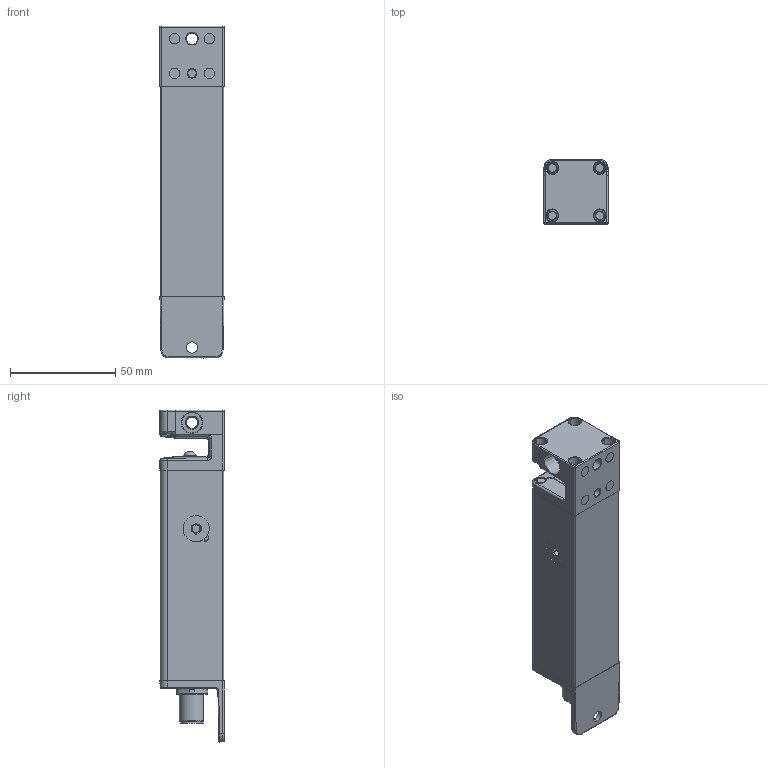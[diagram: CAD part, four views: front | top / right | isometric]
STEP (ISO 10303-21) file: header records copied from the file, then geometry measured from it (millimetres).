
FILE_DESCRIPTION((''),'2;1');
FILE_NAME('2032335_ASM','2023-08-10T11:04:19',('j.rink'),(''),'CREO PARAMETRIC BY PTC INC, 2019292','CREO PARAMETRIC BY PTC INC, 2019292','');
FILE_SCHEMA(('AUTOMOTIVE_DESIGN { 1 0 10303 214 1 1 1 1 }'));
Products named in the file (4): 2032332; 2032340; 2032331; 2032335_ASM
Assembly tree (3 placements, depth 2):
  2032335_ASM
    2032332
    2032340
    2032331
Bounding box: 30.4 x 30.4 x 157.5 mm (x, y, z)
Volume: 110003.3 mm3; surface area: 32211 mm2
Topology: 7 solids, 9 shells, 1324 faces, 3264 edges, 2136 vertices
Faces by surface type: plane 481, cylinder 432, bspline 174, cone 100, torus 87, sphere 50
Entity records: 60675 total; most frequent: CARTESIAN_POINT 16728, ORIENTED_EDGE 6308, DIRECTION 6262, PRESENTATION_STYLE_ASSIGNMENT 3611, STYLED_ITEM 3374, CURVE_STYLE 3266, EDGE_CURVE 3156, AXIS2_PLACEMENT_3D 2317
